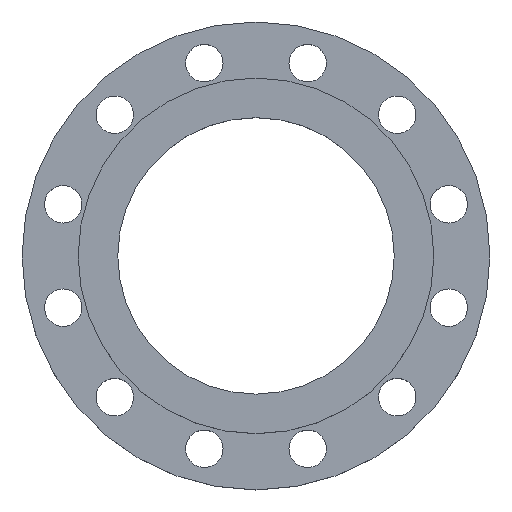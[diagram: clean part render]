
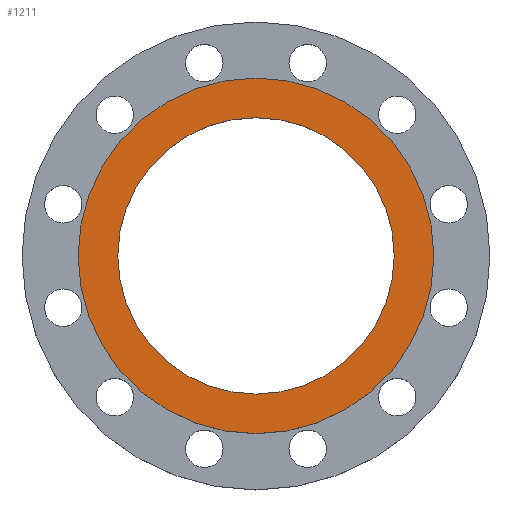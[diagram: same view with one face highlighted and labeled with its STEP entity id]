
A CAD part, top view. The second image highlights one B-rep face of the part: STEP entity #1211.
In plain terms, the highlighted planar face has unit normal (0, 0, 1).
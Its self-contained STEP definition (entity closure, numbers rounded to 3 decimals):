
#17 = EDGE_CURVE ( 'NONE', #1281, #394, #785, .T. ) ;
#58 = EDGE_CURVE ( 'NONE', #505, #873, #695, .T. ) ;
#77 = DIRECTION ( 'NONE',  ( -1., 0., 0. ) ) ;
#110 = CIRCLE ( 'NONE', #181, 110.75 ) ;
#112 = ORIENTED_EDGE ( 'NONE', *, *, #17, .F. ) ;
#176 = DIRECTION ( 'NONE',  ( 0., 0., -1. ) ) ;
#181 = AXIS2_PLACEMENT_3D ( 'NONE', #776, #1133, #196 ) ;
#196 = DIRECTION ( 'NONE',  ( -1., 0., 0. ) ) ;
#200 = AXIS2_PLACEMENT_3D ( 'NONE', #665, #1053, #77 ) ;
#288 = CARTESIAN_POINT ( 'NONE',  ( -142.5, 0., 28. ) ) ;
#290 = FACE_BOUND ( 'NONE', #945, .T. ) ;
#295 = CARTESIAN_POINT ( 'NONE',  ( 0., 0., 28. ) ) ;
#394 = VERTEX_POINT ( 'NONE', #288 ) ;
#446 = CIRCLE ( 'NONE', #448, 142.5 ) ;
#448 = AXIS2_PLACEMENT_3D ( 'NONE', #568, #987, #1315 ) ;
#505 = VERTEX_POINT ( 'NONE', #972 ) ;
#525 = CARTESIAN_POINT ( 'NONE',  ( 110.75, 0., 28. ) ) ;
#548 = AXIS2_PLACEMENT_3D ( 'NONE', #1120, #176, #644 ) ;
#568 = CARTESIAN_POINT ( 'NONE',  ( 0., 0., 28. ) ) ;
#580 = ORIENTED_EDGE ( 'NONE', *, *, #58, .T. ) ;
#644 = DIRECTION ( 'NONE',  ( -1., 0., 0. ) ) ;
#648 = AXIS2_PLACEMENT_3D ( 'NONE', #295, #762, #1125 ) ;
#662 = EDGE_CURVE ( 'NONE', #394, #1281, #446, .T. ) ;
#665 = CARTESIAN_POINT ( 'NONE',  ( 0., 0., 28. ) ) ;
#695 = CIRCLE ( 'NONE', #200, 110.75 ) ;
#756 = PLANE ( 'NONE',  #548 ) ;
#762 = DIRECTION ( 'NONE',  ( 0., 0., -1. ) ) ;
#776 = CARTESIAN_POINT ( 'NONE',  ( 0., 0., 28. ) ) ;
#785 = CIRCLE ( 'NONE', #648, 142.5 ) ;
#873 = VERTEX_POINT ( 'NONE', #525 ) ;
#903 = EDGE_CURVE ( 'NONE', #873, #505, #110, .T. ) ;
#945 = EDGE_LOOP ( 'NONE', ( #580, #1321 ) ) ;
#972 = CARTESIAN_POINT ( 'NONE',  ( -110.75, 0., 28. ) ) ;
#987 = DIRECTION ( 'NONE',  ( 0., 0., -1. ) ) ;
#1049 = CARTESIAN_POINT ( 'NONE',  ( 142.5, 0., 28. ) ) ;
#1053 = DIRECTION ( 'NONE',  ( 0., 0., -1. ) ) ;
#1074 = ORIENTED_EDGE ( 'NONE', *, *, #662, .F. ) ;
#1120 = CARTESIAN_POINT ( 'NONE',  ( 110.75, 0., 28. ) ) ;
#1125 = DIRECTION ( 'NONE',  ( -1., 0., 0. ) ) ;
#1133 = DIRECTION ( 'NONE',  ( 0., 0., -1. ) ) ;
#1169 = EDGE_LOOP ( 'NONE', ( #1074, #112 ) ) ;
#1202 = FACE_OUTER_BOUND ( 'NONE', #1169, .T. ) ;
#1211 = ADVANCED_FACE ( 'NONE', ( #1202, #290 ), #756, .F. ) ;
#1281 = VERTEX_POINT ( 'NONE', #1049 ) ;
#1315 = DIRECTION ( 'NONE',  ( -1., 0., 0. ) ) ;
#1321 = ORIENTED_EDGE ( 'NONE', *, *, #903, .T. ) ;
